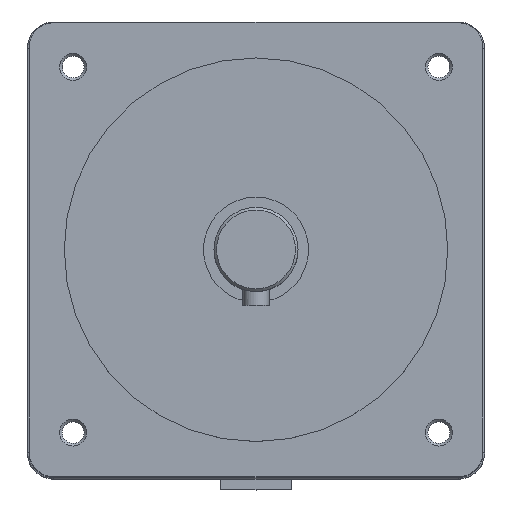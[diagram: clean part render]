
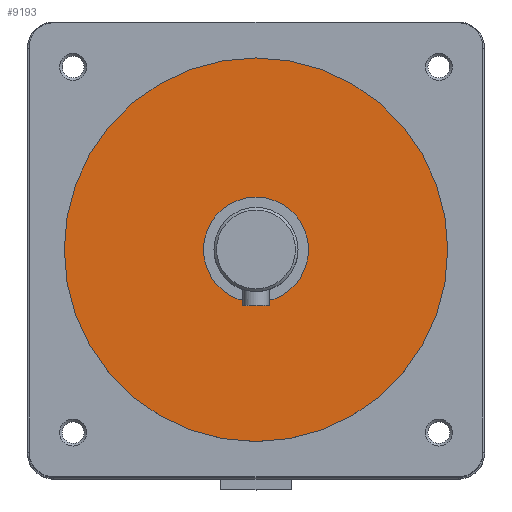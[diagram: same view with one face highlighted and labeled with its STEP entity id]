
A CAD part, top view. The second image highlights one B-rep face of the part: STEP entity #9193.
In plain terms, the highlighted planar face has unit normal (0, 0, 1).
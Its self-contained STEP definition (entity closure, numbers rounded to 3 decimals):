
#2360=FACE_BOUND('',#3327,.T.);
#2756=FACE_OUTER_BOUND('',#3326,.T.);
#3326=EDGE_LOOP('',(#7844));
#3327=EDGE_LOOP('',(#7845));
#3550=CIRCLE('',#9632,10.);
#3551=CIRCLE('',#9635,36.5);
#4378=VERTEX_POINT('',#15992);
#4379=VERTEX_POINT('',#15996);
#5573=EDGE_CURVE('',#4378,#4378,#3550,.T.);
#5574=EDGE_CURVE('',#4379,#4379,#3551,.T.);
#7844=ORIENTED_EDGE('',*,*,#5574,.T.);
#7845=ORIENTED_EDGE('',*,*,#5573,.T.);
#8773=PLANE('',#9636);
#9193=ADVANCED_FACE('',(#2756,#2360),#8773,.T.);
#9632=AXIS2_PLACEMENT_3D('',#15993,#11208,#11209);
#9635=AXIS2_PLACEMENT_3D('',#15997,#11214,#11215);
#9636=AXIS2_PLACEMENT_3D('',#15998,#11216,#11217);
#11208=DIRECTION('center_axis',(0.,0.,-1.));
#11209=DIRECTION('ref_axis',(-1.,0.,0.));
#11214=DIRECTION('center_axis',(0.,0.,1.));
#11215=DIRECTION('ref_axis',(-1.,0.,0.));
#11216=DIRECTION('center_axis',(0.,0.,1.));
#11217=DIRECTION('ref_axis',(1.,0.,0.));
#15992=CARTESIAN_POINT('',(53.5,43.5,99.4));
#15993=CARTESIAN_POINT('Origin',(43.5,43.5,99.4));
#15996=CARTESIAN_POINT('',(80.,43.5,99.4));
#15997=CARTESIAN_POINT('Origin',(43.5,43.5,99.4));
#15998=CARTESIAN_POINT('Origin',(43.5,43.5,99.4));
